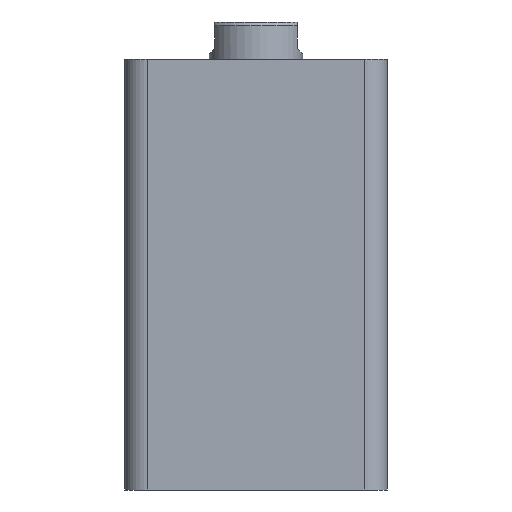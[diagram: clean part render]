
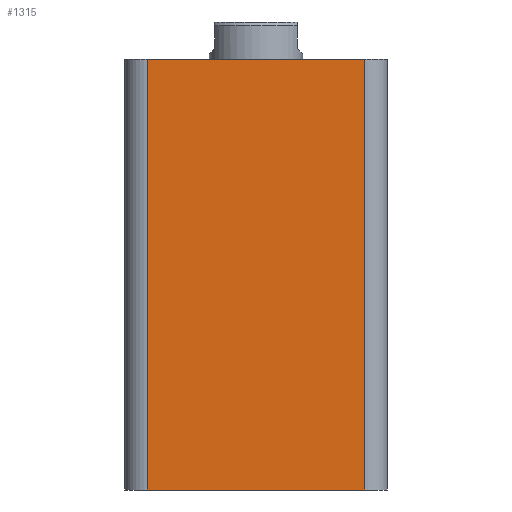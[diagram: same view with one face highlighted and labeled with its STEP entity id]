
A CAD part, front view. The second image highlights one B-rep face of the part: STEP entity #1315.
In plain terms, the highlighted planar face has unit normal (0, -1, 0).
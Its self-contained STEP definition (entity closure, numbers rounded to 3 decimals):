
#117 = FACE_OUTER_BOUND ( 'NONE', #341, .T. ) ;
#341 = EDGE_LOOP ( 'NONE', ( #717, #716, #715, #714 ) ) ;
#565 = VERTEX_POINT ( 'NONE', #1465 ) ;
#584 = VERTEX_POINT ( 'NONE', #1520 ) ;
#613 = VERTEX_POINT ( 'NONE', #1472 ) ;
#628 = VERTEX_POINT ( 'NONE', #1453 ) ;
#714 = ORIENTED_EDGE ( 'NONE', *, *, #1609, .T. ) ;
#715 = ORIENTED_EDGE ( 'NONE', *, *, #1608, .T. ) ;
#716 = ORIENTED_EDGE ( 'NONE', *, *, #1607, .T. ) ;
#717 = ORIENTED_EDGE ( 'NONE', *, *, #1606, .F. ) ;
#873 = AXIS2_PLACEMENT_3D ( 'NONE', #2521, #2516, #2515 ) ;
#1082 = VECTOR ( 'NONE', #2594, 1000. ) ;
#1084 = VECTOR ( 'NONE', #2609, 1000. ) ;
#1085 = LINE ( 'NONE', #2613, #1082 ) ;
#1086 = VECTOR ( 'NONE', #2026, 1000. ) ;
#1088 = VECTOR ( 'NONE', #2028, 1000. ) ;
#1089 = LINE ( 'NONE', #2027, #1086 ) ;
#1091 = LINE ( 'NONE', #2031, #1088 ) ;
#1097 = LINE ( 'NONE', #2045, #1084 ) ;
#1315 = ADVANCED_FACE ( 'NONE', ( #117 ), #2519, .F. ) ;
#1453 = CARTESIAN_POINT ( 'NONE',  ( 29., -35., 0. ) ) ;
#1465 = CARTESIAN_POINT ( 'NONE',  ( -29., -35., 0. ) ) ;
#1472 = CARTESIAN_POINT ( 'NONE',  ( 29., -35., 115. ) ) ;
#1520 = CARTESIAN_POINT ( 'NONE',  ( -29., -35., 115. ) ) ;
#1606 = EDGE_CURVE ( 'NONE', #584, #613, #1091, .T. ) ;
#1607 = EDGE_CURVE ( 'NONE', #584, #565, #1089, .T. ) ;
#1608 = EDGE_CURVE ( 'NONE', #565, #628, #1097, .T. ) ;
#1609 = EDGE_CURVE ( 'NONE', #628, #613, #1085, .T. ) ;
#2026 = DIRECTION ( 'NONE',  ( 0., 0., -1. ) ) ;
#2027 = CARTESIAN_POINT ( 'NONE',  ( -29., -35., 115. ) ) ;
#2028 = DIRECTION ( 'NONE',  ( 1., 0., 0. ) ) ;
#2031 = CARTESIAN_POINT ( 'NONE',  ( -35., -35., 115. ) ) ;
#2045 = CARTESIAN_POINT ( 'NONE',  ( -35., -35., 0. ) ) ;
#2515 = DIRECTION ( 'NONE',  ( 0., 0., 1. ) ) ;
#2516 = DIRECTION ( 'NONE',  ( 0., 1., 0. ) ) ;
#2519 = PLANE ( 'NONE',  #873 ) ;
#2521 = CARTESIAN_POINT ( 'NONE',  ( -35., -35., 115. ) ) ;
#2594 = DIRECTION ( 'NONE',  ( 0., 0., 1. ) ) ;
#2609 = DIRECTION ( 'NONE',  ( 1., 0., 0. ) ) ;
#2613 = CARTESIAN_POINT ( 'NONE',  ( 29., -35., 115. ) ) ;
